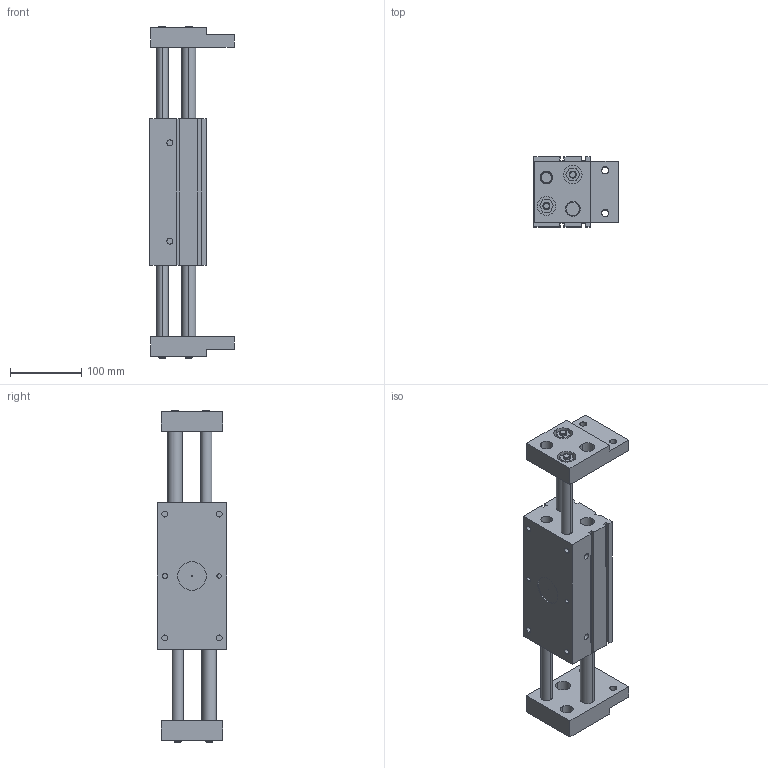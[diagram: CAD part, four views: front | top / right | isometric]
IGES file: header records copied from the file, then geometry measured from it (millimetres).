
Global section: file name: No Iges File Name specified; native system: Autodesk Inventor 2011; preprocessor: AutoDesk Inventor Iges Exporter R2011; author: airolcr1; date: 20110614.104625; units: millimetre
Bounding box: 118 x 98 x 466 mm (x, y, z)
Volume: 2062780.4 mm3; surface area: 285595.8 mm2
Topology: 3 solids, 3 shells, 203 faces, 494 edges, 322 vertices
Faces by surface type: plane 101, bspline 56, cylinder 16, cone 16, revolution 14
